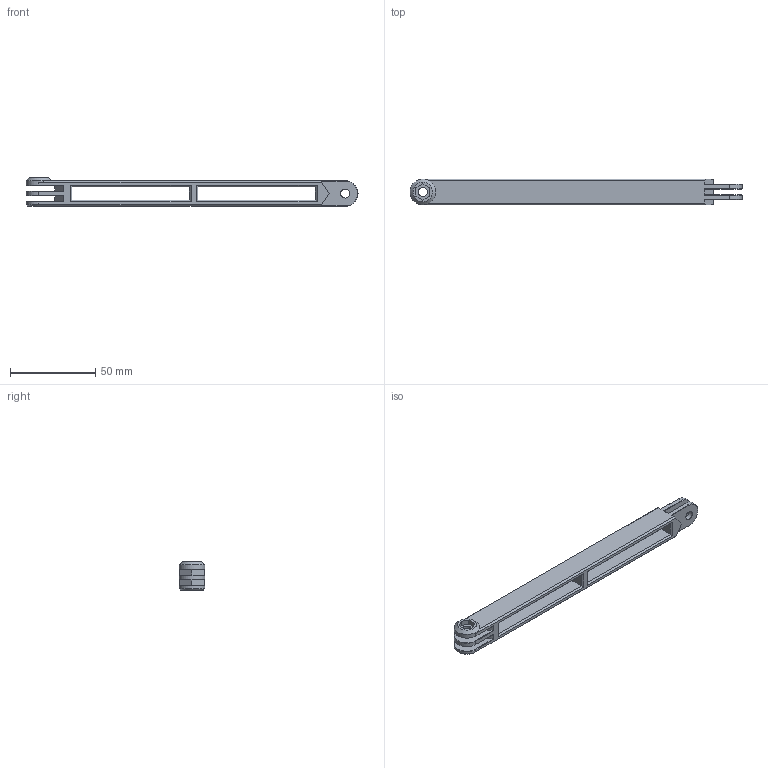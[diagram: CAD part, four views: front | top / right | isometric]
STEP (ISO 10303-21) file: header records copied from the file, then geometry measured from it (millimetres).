
FILE_DESCRIPTION(/* description */ ('STEP AP214'),/* implementation_level */ '2;1');
FILE_NAME(/* name */ '60a1caed47515311da46b79a',/* time_stamp */ '2021-05-17T01:46:22+00:00',/* author */ (''),/* organization */ (''),/* preprocessor_version */ 'ST-DEVELOPER v18.1',/* originating_system */ ' ',/* authorisation */ ' ');
FILE_SCHEMA (('AUTOMOTIVE_DESIGN {1 0 10303 214 3 1 1}'));
Length unit declared in the file: metre
Products named in the file (1): Arm Rotated
Bounding box: 195 x 15 x 16.8 mm (x, y, z)
Volume: 21846.4 mm3; surface area: 14676.6 mm2
Topology: 1 solids, 1 shells, 104 faces, 272 edges, 171 vertices
Faces by surface type: plane 84, cylinder 10, cone 10
Full cylindrical faces by diameter (mm): 5.3 x5
Entity records: 3095 total; most frequent: CARTESIAN_POINT 530, ORIENTED_EDGE 520, DIRECTION 503, EDGE_CURVE 260, LINE 227, VECTOR 227, VERTEX_POINT 165, AXIS2_PLACEMENT_3D 138
